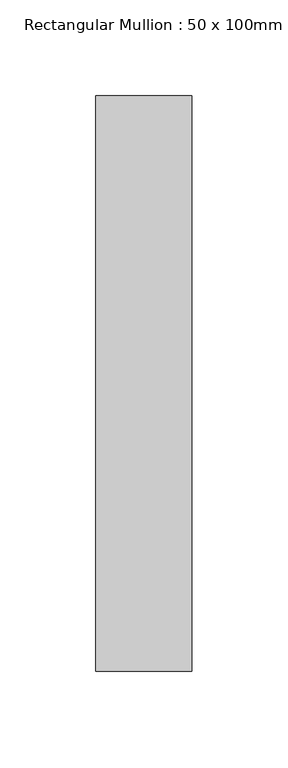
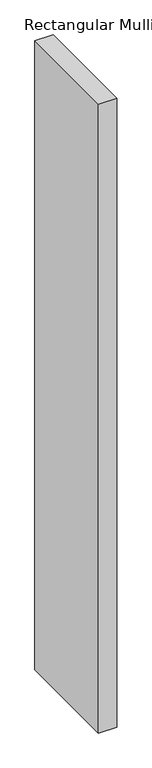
"""IFC4 building model written with IfcOpenShell, lengths in millimetres: member geometry, Rectangular Mullion : 50 x 100mm."""

from ifc_helpers import new_model, si_unit, frame, origin, place, context, project, spatial, polyline, outline, extrude, source, transform, mapped, element, save


def rectangular_mullion_50_x_100mm_b91047e1(model_context):
    return source(origin(), model_context, "Body", "SweptSolid", [
        extrude(outline(polyline([(0.0, 175.0), (0.0, -125.0), (-50.0, -125.0), (-50.0, 175.0), (0.0, 175.0)])), frame((0.0, 0.0, -1812.84856), z_axis=(0.0, 0.0, 1.0), x_axis=(1.0, 0.0, 0.0)), (0.0, 0.0, 1.0), 1812.84856),
    ])


if __name__ == "__main__":
    model = new_model("IFC4")
    model_context = context("Model", 3, world=origin())
    ifc_project = project(units=[si_unit("LENGTHUNIT", "METRE", prefix="MILLI")], contexts=[model_context])
    site = spatial("IfcSite", under=ifc_project)
    building = spatial("IfcBuilding", under=site)
    placement = place(None, origin())
    rectangular_mullion_50_x_100mm_shape = rectangular_mullion_50_x_100mm_b91047e1(model_context)
    element("IfcMember", 1, ObjectType="Rectangular Mullion : 50 x 100mm", at=placement, inside=building, context=model_context, shape_type="MappedRepresentation", body=[
        mapped(rectangular_mullion_50_x_100mm_shape, transform((0.0, 0.0, 0.0), x_axis=(1.0, 0.0, 0.0), y_axis=(0.0, 1.0, 0.0), z_axis=(0.0, 0.0, 1.0))),
    ])
    save(model, "model.ifc")
